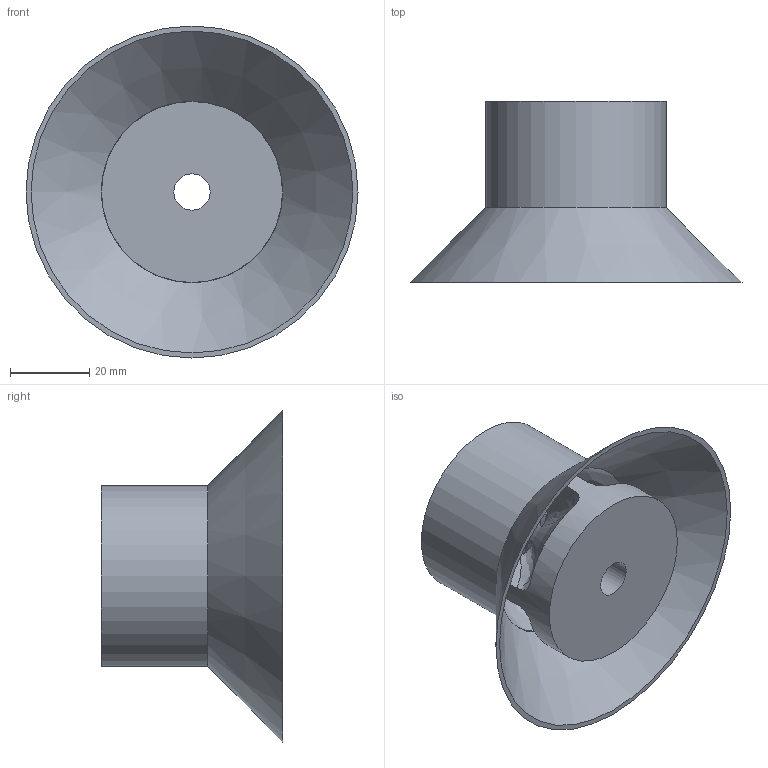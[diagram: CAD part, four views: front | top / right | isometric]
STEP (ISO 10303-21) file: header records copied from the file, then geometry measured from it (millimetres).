
FILE_DESCRIPTION(/* description */ (''),/* implementation_level */ '2;1');
FILE_NAME(/* name */ 'C:/Users/Owner/Desktop/KCAD 3Dp Fuel Filter Baffles Gen1/STEP Versions/1.8DIAx1.8 High Baffles STEP/1.8 Dia 36 CAL Baffle STEP.step',/* time_stamp */ '2019-06-09T15:45:10-04:00',/* author */ (''),/* organization */ (''),/* preprocessor_version */ 'ST-DEVELOPER v18',/* originating_system */ 'Autodesk Translation Framework v8.2.0.1029',/* authorisation */ '');
FILE_SCHEMA (('AUTOMOTIVE_DESIGN { 1 0 10303 214 3 1 1 }'));
Length unit declared in the file: inch
Products named in the file (1): baf 7 .360 cal
Bounding box: 83.82 x 45.72 x 83.82 mm (x, y, z)
Volume: 56284.2 mm3; surface area: 25755.5 mm2
Topology: 1 solids, 1 shells, 40 faces, 145 edges, 100 vertices
Faces by surface type: plane 15, bspline 13, cylinder 8, cone 2, torus 2
Full cylindrical faces by diameter (mm): 9.144 x2, 45.72 x2
Entity records: 2660 total; most frequent: CARTESIAN_POINT 1533, ORIENTED_EDGE 290, DIRECTION 158, EDGE_CURVE 145, VERTEX_POINT 100, B_SPLINE_CURVE_WITH_KNOTS 70, AXIS2_PLACEMENT_3D 64, EDGE_LOOP 43
